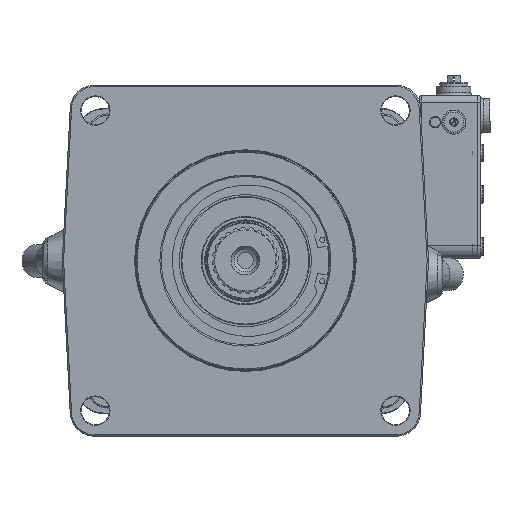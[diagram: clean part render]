
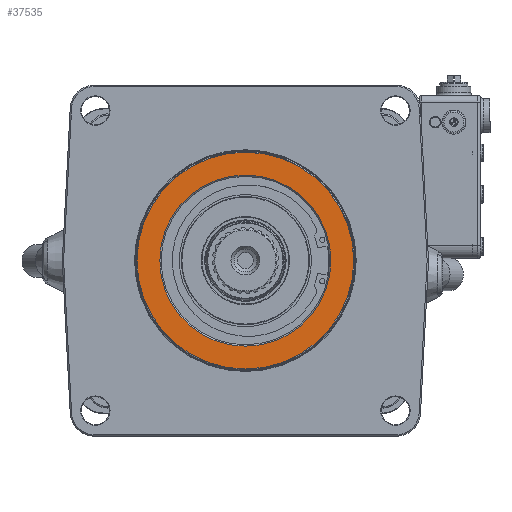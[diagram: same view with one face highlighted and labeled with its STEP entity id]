
A CAD part, top view. The second image highlights one B-rep face of the part: STEP entity #37535.
In plain terms, the highlighted planar face has unit normal (0, 0, 1).
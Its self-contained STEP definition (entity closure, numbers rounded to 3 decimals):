
#1476 = CIRCLE ( 'NONE', #79826, 64. ) ;
#1931 = EDGE_CURVE ( 'NONE', #5554, #5554, #1476, .T. ) ;
#5554 = VERTEX_POINT ( 'NONE', #67759 ) ;
#7298 = DIRECTION ( 'NONE',  ( 0., 1., 0. ) ) ;
#12772 = CARTESIAN_POINT ( 'NONE',  ( 0., 0., 15.9 ) ) ;
#12975 = DIRECTION ( 'NONE',  ( 0., 1., 0. ) ) ;
#13385 = DIRECTION ( 'NONE',  ( 0., 1., 0. ) ) ;
#14494 = ORIENTED_EDGE ( 'NONE', *, *, #27036, .T. ) ;
#15122 = CARTESIAN_POINT ( 'NONE',  ( 0., 81.108, 15.9 ) ) ;
#20489 = CIRCLE ( 'NONE', #56556, 81.108 ) ;
#25880 = FACE_OUTER_BOUND ( 'NONE', #37792, .T. ) ;
#27036 = EDGE_CURVE ( 'NONE', #76867, #76867, #20489, .T. ) ;
#28381 = AXIS2_PLACEMENT_3D ( 'NONE', #39227, #50480, #12975 ) ;
#35870 = EDGE_LOOP ( 'NONE', ( #73816 ) ) ;
#37535 = ADVANCED_FACE ( 'NONE', ( #25880, #58241 ), #76669, .F. ) ;
#37792 = EDGE_LOOP ( 'NONE', ( #14494 ) ) ;
#38576 = DIRECTION ( 'NONE',  ( 0., 0., -1. ) ) ;
#39227 = CARTESIAN_POINT ( 'NONE',  ( 63., 0., 15.9 ) ) ;
#45396 = CARTESIAN_POINT ( 'NONE',  ( 0., 0., 15.9 ) ) ;
#50480 = DIRECTION ( 'NONE',  ( 0., 0., -1. ) ) ;
#51076 = DIRECTION ( 'NONE',  ( 0., 0., 1. ) ) ;
#56556 = AXIS2_PLACEMENT_3D ( 'NONE', #12772, #51076, #7298 ) ;
#58241 = FACE_BOUND ( 'NONE', #35870, .T. ) ;
#67759 = CARTESIAN_POINT ( 'NONE',  ( 0., 64., 15.9 ) ) ;
#73816 = ORIENTED_EDGE ( 'NONE', *, *, #1931, .T. ) ;
#76669 = PLANE ( 'NONE',  #28381 ) ;
#76867 = VERTEX_POINT ( 'NONE', #15122 ) ;
#79826 = AXIS2_PLACEMENT_3D ( 'NONE', #45396, #38576, #13385 ) ;
